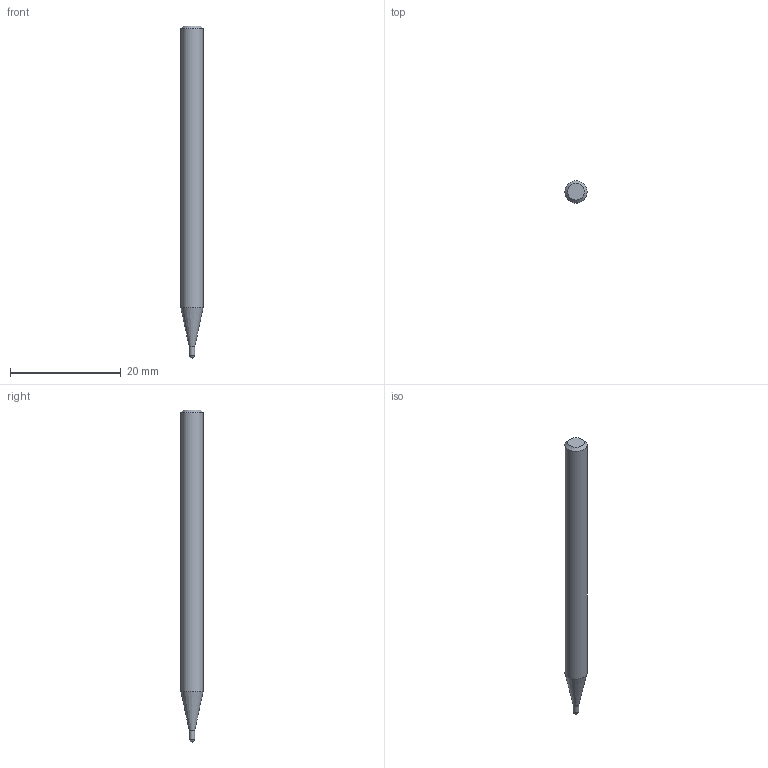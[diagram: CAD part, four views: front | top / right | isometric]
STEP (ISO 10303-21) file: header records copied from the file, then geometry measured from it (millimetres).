
FILE_DESCRIPTION((''),'2;1');
FILE_NAME('C:\Users\nsx150\AppData\Local\Temp\Mastercam 2021\EUJSUNXURU\TEMP.step','2021-04-22T10:22:39',(''),(''),'STEP Write','Mastercam 2021 ... CNC Software, Inc.','');
FILE_SCHEMA(('AUTOMOTIVE_DESIGN'));
Length unit declared in the file: millimetre
Products named in the file (1): None
Bounding box: 4 x 4 x 60 mm (x, y, z)
Volume: 679 mm3; surface area: 713.2 mm2
Topology: 2 solids, 2 shells, 8 faces, 12 edges, 7 vertices
Faces by surface type: plane 3, cylinder 2, cone 2, sphere 1
Full cylindrical faces by diameter (mm): 1 x1, 4 x1
Entity records: 190 total; most frequent: DIRECTION 32, CARTESIAN_POINT 22, AXIS2_PLACEMENT_3D 16, ORIENTED_EDGE 12, EDGE_LOOP 12, STYLED_ITEM 11, ADVANCED_FACE 8, VERTEX_POINT 6
